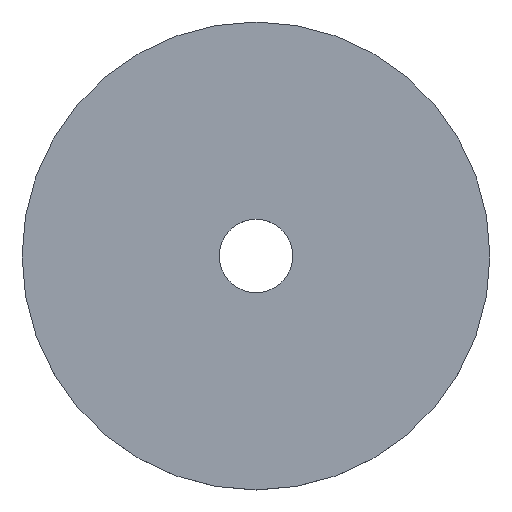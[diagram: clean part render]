
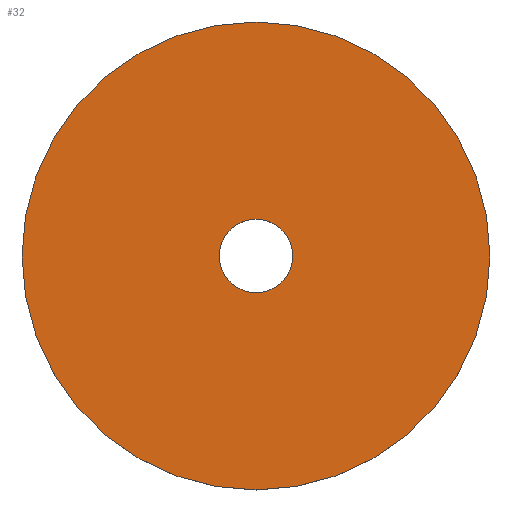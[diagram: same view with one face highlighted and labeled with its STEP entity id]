
A CAD part, top view. The second image highlights one B-rep face of the part: STEP entity #32.
In plain terms, the highlighted planar face has unit normal (0, 0, 1).
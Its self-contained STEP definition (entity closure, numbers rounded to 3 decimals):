
#32 = ADVANCED_FACE( '', ( #61, #62 ), #63, .F. );
#61 = FACE_BOUND( '', #84, .T. );
#62 = FACE_OUTER_BOUND( '', #85, .T. );
#63 = PLANE( '', #86 );
#84 = EDGE_LOOP( '', ( #105 ) );
#85 = EDGE_LOOP( '', ( #106 ) );
#86 = AXIS2_PLACEMENT_3D( '', #107, #108, #109 );
#105 = ORIENTED_EDGE( '', *, *, #122, .F. );
#106 = ORIENTED_EDGE( '', *, *, #120, .F. );
#107 = CARTESIAN_POINT( '', ( 0., 0., 2. ) );
#108 = DIRECTION( '', ( 0., 0., -1. ) );
#109 = DIRECTION( '', ( -1., 0., 0. ) );
#120 = EDGE_CURVE( '', #130, #130, #131, .T. );
#122 = EDGE_CURVE( '', #133, #133, #134, .T. );
#130 = VERTEX_POINT( '', #142 );
#131 = CIRCLE( '', #143, 17.5 );
#133 = VERTEX_POINT( '', #145 );
#134 = CIRCLE( '', #146, 2.75 );
#142 = CARTESIAN_POINT( '', ( 17.5, 0., 2. ) );
#143 = AXIS2_PLACEMENT_3D( '', #154, #155, #156 );
#145 = CARTESIAN_POINT( '', ( 2.75, 0., 2. ) );
#146 = AXIS2_PLACEMENT_3D( '', #157, #158, #159 );
#154 = CARTESIAN_POINT( '', ( 0., 0., 2. ) );
#155 = DIRECTION( '', ( 0., 0., -1. ) );
#156 = DIRECTION( '', ( 1., 0., 0. ) );
#157 = CARTESIAN_POINT( '', ( 0., 0., 2. ) );
#158 = DIRECTION( '', ( 0., 0., 1. ) );
#159 = DIRECTION( '', ( 1., 0., 0. ) );
